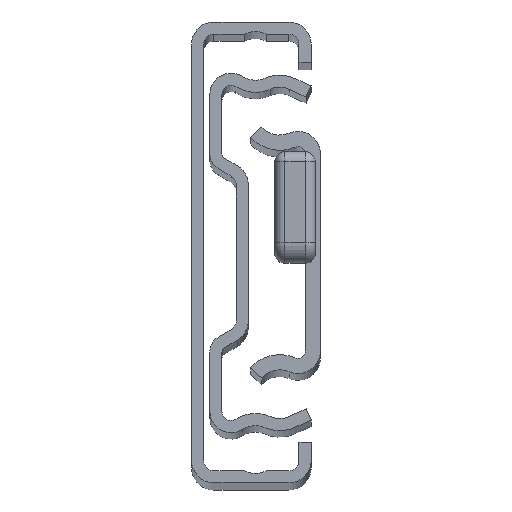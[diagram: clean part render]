
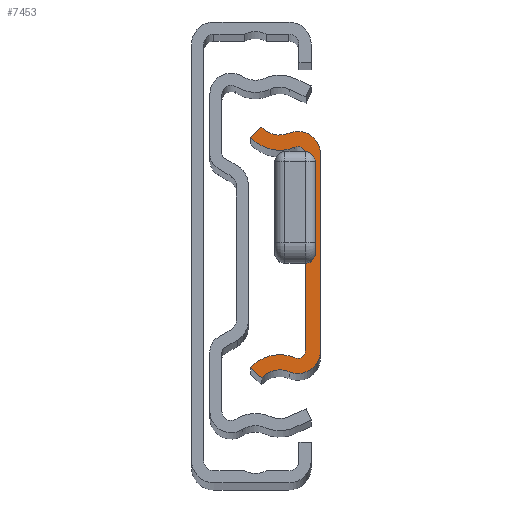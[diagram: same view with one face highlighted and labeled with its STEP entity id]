
A CAD part, top view. The second image highlights one B-rep face of the part: STEP entity #7453.
In plain terms, the highlighted planar face has unit normal (0, 0, 1).
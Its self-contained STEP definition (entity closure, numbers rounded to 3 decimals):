
#129 = CIRCLE ( 'NONE', #18598, 2.38 ) ;
#258 = EDGE_CURVE ( 'NONE', #17721, #24777, #4763, .T. ) ;
#790 = DIRECTION ( 'NONE',  ( -1., 0., 0. ) ) ;
#801 = ORIENTED_EDGE ( 'NONE', *, *, #21011, .T. ) ;
#1023 = AXIS2_PLACEMENT_3D ( 'NONE', #25374, #14189, #790 ) ;
#1504 = CARTESIAN_POINT ( 'NONE',  ( -0.564, 13.97, 0. ) ) ;
#1931 = CARTESIAN_POINT ( 'NONE',  ( 1.224, 9.725, 0. ) ) ;
#2257 = AXIS2_PLACEMENT_3D ( 'NONE', #19770, #10857, #6334 ) ;
#2802 = ORIENTED_EDGE ( 'NONE', *, *, #14552, .T. ) ;
#3123 = LINE ( 'NONE', #25646, #19272 ) ;
#3572 = VERTEX_POINT ( 'NONE', #15411 ) ;
#3659 = DIRECTION ( 'NONE',  ( 0., 0., -1. ) ) ;
#4428 = ORIENTED_EDGE ( 'NONE', *, *, #5475, .T. ) ;
#4455 = CARTESIAN_POINT ( 'NONE',  ( 1.95, 9.725, 0. ) ) ;
#4533 = EDGE_CURVE ( 'NONE', #19926, #17721, #9136, .T. ) ;
#4700 = CIRCLE ( 'NONE', #7516, 0.726 ) ;
#4763 = CIRCLE ( 'NONE', #13262, 2.38 ) ;
#4839 = EDGE_CURVE ( 'NONE', #27792, #19926, #21081, .T. ) ;
#5234 = LINE ( 'NONE', #9003, #13615 ) ;
#5390 = AXIS2_PLACEMENT_3D ( 'NONE', #6185, #21882, #26394 ) ;
#5475 = EDGE_CURVE ( 'NONE', #24777, #26574, #5234, .T. ) ;
#5590 = VECTOR ( 'NONE', #24705, 1000. ) ;
#5739 = CIRCLE ( 'NONE', #2257, 2.226 ) ;
#5953 = LINE ( 'NONE', #15931, #5590 ) ;
#6185 = CARTESIAN_POINT ( 'NONE',  ( 1.224, -9.725, 0. ) ) ;
#6334 = DIRECTION ( 'NONE',  ( 1., 0., 0. ) ) ;
#6428 = DIRECTION ( 'NONE',  ( -1., 0., 0. ) ) ;
#6743 = ORIENTED_EDGE ( 'NONE', *, *, #17618, .T. ) ;
#6772 = DIRECTION ( 'NONE',  ( 0., 0., 1. ) ) ;
#7145 = ORIENTED_EDGE ( 'NONE', *, *, #8933, .T. ) ;
#7453 = ADVANCED_FACE ( 'Face2', ( #25833 ), #11413, .T. ) ;
#7516 = AXIS2_PLACEMENT_3D ( 'NONE', #1931, #21943, #6428 ) ;
#7867 = VERTEX_POINT ( 'NONE', #23963 ) ;
#8933 = EDGE_CURVE ( 'NONE', #17460, #3572, #16234, .T. ) ;
#9003 = CARTESIAN_POINT ( 'NONE',  ( -3.45, 11.377, 0. ) ) ;
#9095 = DIRECTION ( 'NONE',  ( -0.745, -0.667, 0. ) ) ;
#9136 = CIRCLE ( 'NONE', #24823, 2.226 ) ;
#9565 = CIRCLE ( 'NONE', #5390, 0.726 ) ;
#9924 = DIRECTION ( 'NONE',  ( 0., 0., 1. ) ) ;
#10857 = DIRECTION ( 'NONE',  ( 0., 0., 1. ) ) ;
#10858 = CARTESIAN_POINT ( 'NONE',  ( 1.95, -9.725, 0. ) ) ;
#10932 = CARTESIAN_POINT ( 'NONE',  ( -0.564, -13.97, 0. ) ) ;
#11413 = PLANE ( 'NONE',  #24865 ) ;
#11786 = CARTESIAN_POINT ( 'NONE',  ( 3.45, 9.725, 0. ) ) ;
#12860 = CARTESIAN_POINT ( 'NONE',  ( -3.45, 11.377, 0. ) ) ;
#13262 = AXIS2_PLACEMENT_3D ( 'NONE', #1504, #28468, #28182 ) ;
#13330 = ORIENTED_EDGE ( 'NONE', *, *, #258, .T. ) ;
#13615 = VECTOR ( 'NONE', #9095, 1000. ) ;
#14189 = DIRECTION ( 'NONE',  ( 0., 0., 1. ) ) ;
#14259 = EDGE_CURVE ( 'NONE', #26516, #28464, #4700, .T. ) ;
#14552 = EDGE_CURVE ( 'NONE', #21430, #7867, #129, .T. ) ;
#14833 = ORIENTED_EDGE ( 'NONE', *, *, #14259, .T. ) ;
#14954 = DIRECTION ( 'NONE',  ( 1., 0., 0. ) ) ;
#15077 = EDGE_CURVE ( 'NONE', #7867, #27792, #5739, .T. ) ;
#15411 = CARTESIAN_POINT ( 'NONE',  ( -3.45, -11.377, 0. ) ) ;
#15931 = CARTESIAN_POINT ( 'NONE',  ( 1.95, -9.725, 0. ) ) ;
#15950 = DIRECTION ( 'NONE',  ( 1., 0., 0. ) ) ;
#16234 = CIRCLE ( 'NONE', #27154, 3.88 ) ;
#16816 = CIRCLE ( 'NONE', #1023, 3.88 ) ;
#16844 = EDGE_CURVE ( 'NONE', #26574, #26516, #16816, .T. ) ;
#17449 = ORIENTED_EDGE ( 'NONE', *, *, #4839, .T. ) ;
#17460 = VERTEX_POINT ( 'NONE', #19450 ) ;
#17618 = EDGE_CURVE ( 'NONE', #28464, #28358, #5953, .T. ) ;
#17721 = VERTEX_POINT ( 'NONE', #25021 ) ;
#17907 = CARTESIAN_POINT ( 'NONE',  ( -2.333, -12.378, 0. ) ) ;
#18598 = AXIS2_PLACEMENT_3D ( 'NONE', #10932, #3659, #14954 ) ;
#18676 = EDGE_LOOP ( 'NONE', ( #2802, #22856, #17449, #21646, #13330, #4428, #19729, #14833, #6743, #801, #7145, #23787 ) ) ;
#19272 = VECTOR ( 'NONE', #23592, 1000. ) ;
#19450 = CARTESIAN_POINT ( 'NONE',  ( 0.942, -10.394, 0. ) ) ;
#19729 = ORIENTED_EDGE ( 'NONE', *, *, #16844, .T. ) ;
#19770 = CARTESIAN_POINT ( 'NONE',  ( 1.224, -9.725, 0. ) ) ;
#19926 = VERTEX_POINT ( 'NONE', #11786 ) ;
#20991 = DIRECTION ( 'NONE',  ( -1., 0., 0. ) ) ;
#21011 = EDGE_CURVE ( 'NONE', #28358, #17460, #9565, .T. ) ;
#21081 = LINE ( 'NONE', #28802, #26685 ) ;
#21430 = VERTEX_POINT ( 'NONE', #17907 ) ;
#21646 = ORIENTED_EDGE ( 'NONE', *, *, #4533, .T. ) ;
#21675 = CARTESIAN_POINT ( 'NONE',  ( 0.942, 10.394, 0. ) ) ;
#21882 = DIRECTION ( 'NONE',  ( 0., 0., -1. ) ) ;
#21943 = DIRECTION ( 'NONE',  ( 0., 0., -1. ) ) ;
#22856 = ORIENTED_EDGE ( 'NONE', *, *, #15077, .T. ) ;
#23145 = EDGE_CURVE ( 'NONE', #3572, #21430, #3123, .T. ) ;
#23427 = CARTESIAN_POINT ( 'NONE',  ( 3.45, -9.725, 0. ) ) ;
#23457 = DIRECTION ( 'NONE',  ( 1., 0., 0. ) ) ;
#23592 = DIRECTION ( 'NONE',  ( 0.745, -0.667, 0. ) ) ;
#23787 = ORIENTED_EDGE ( 'NONE', *, *, #23145, .T. ) ;
#23963 = CARTESIAN_POINT ( 'NONE',  ( 0.36, -11.777, 0. ) ) ;
#24549 = CARTESIAN_POINT ( 'NONE',  ( -0.564, -13.97, 0. ) ) ;
#24705 = DIRECTION ( 'NONE',  ( 0., -1., 0. ) ) ;
#24777 = VERTEX_POINT ( 'NONE', #25240 ) ;
#24823 = AXIS2_PLACEMENT_3D ( 'NONE', #25698, #9924, #20991 ) ;
#24865 = AXIS2_PLACEMENT_3D ( 'NONE', #24549, #6772, #15950 ) ;
#25021 = CARTESIAN_POINT ( 'NONE',  ( 0.36, 11.777, 0. ) ) ;
#25240 = CARTESIAN_POINT ( 'NONE',  ( -2.333, 12.378, 0. ) ) ;
#25374 = CARTESIAN_POINT ( 'NONE',  ( -0.564, 13.97, 0. ) ) ;
#25646 = CARTESIAN_POINT ( 'NONE',  ( -3.45, -11.377, 0. ) ) ;
#25698 = CARTESIAN_POINT ( 'NONE',  ( 1.224, 9.725, 0. ) ) ;
#25833 = FACE_OUTER_BOUND ( 'NONE', #18676, .T. ) ;
#25892 = CARTESIAN_POINT ( 'NONE',  ( -0.564, -13.97, 0. ) ) ;
#26394 = DIRECTION ( 'NONE',  ( 1., 0., 0. ) ) ;
#26516 = VERTEX_POINT ( 'NONE', #21675 ) ;
#26574 = VERTEX_POINT ( 'NONE', #12860 ) ;
#26685 = VECTOR ( 'NONE', #26941, 1000. ) ;
#26941 = DIRECTION ( 'NONE',  ( 0., 1., 0. ) ) ;
#27154 = AXIS2_PLACEMENT_3D ( 'NONE', #25892, #28260, #23457 ) ;
#27792 = VERTEX_POINT ( 'NONE', #23427 ) ;
#28182 = DIRECTION ( 'NONE',  ( -1., 0., 0. ) ) ;
#28260 = DIRECTION ( 'NONE',  ( 0., 0., 1. ) ) ;
#28358 = VERTEX_POINT ( 'NONE', #10858 ) ;
#28464 = VERTEX_POINT ( 'NONE', #4455 ) ;
#28468 = DIRECTION ( 'NONE',  ( 0., 0., -1. ) ) ;
#28802 = CARTESIAN_POINT ( 'NONE',  ( 3.45, -9.725, 0. ) ) ;
